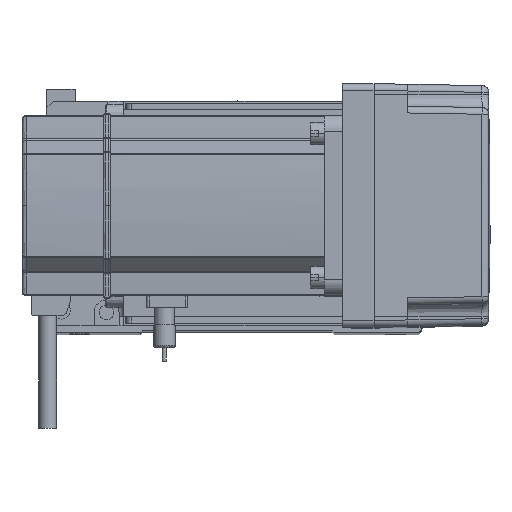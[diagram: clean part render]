
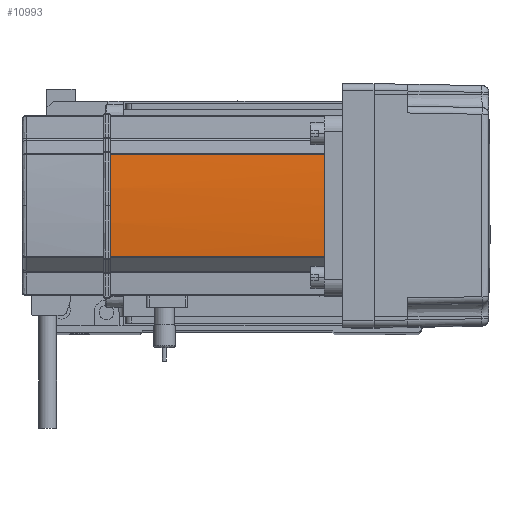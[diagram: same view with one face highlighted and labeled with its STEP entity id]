
A CAD part, top view. The second image highlights one B-rep face of the part: STEP entity #10993.
In plain terms, the highlighted cylindrical face has radius 270 mm (diameter 540 mm), a partial arc.
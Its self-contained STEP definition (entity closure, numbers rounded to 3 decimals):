
#746 = DIRECTION ( 'NONE',  ( 0., 0., 1. ) ) ;
#2435 = VERTEX_POINT ( 'NONE', #50577 ) ;
#3681 = DIRECTION ( 'NONE',  ( 0., 0., 1. ) ) ;
#3773 = CIRCLE ( 'NONE', #9966, 270. ) ;
#5027 = DIRECTION ( 'NONE',  ( 0., 0., -1. ) ) ;
#6874 = EDGE_CURVE ( 'NONE', #27685, #46091, #3773, .T. ) ;
#7157 = VERTEX_POINT ( 'NONE', #36383 ) ;
#8367 = DIRECTION ( 'NONE',  ( 1., 0., 0. ) ) ;
#8438 = LINE ( 'NONE', #25450, #19837 ) ;
#9714 = EDGE_CURVE ( 'NONE', #46091, #41970, #16575, .T. ) ;
#9966 = AXIS2_PLACEMENT_3D ( 'NONE', #26010, #5027, #35078 ) ;
#10520 = CIRCLE ( 'NONE', #40606, 270. ) ;
#10993 = ADVANCED_FACE ( 'NONE', ( #51416 ), #33210, .T. ) ;
#11081 = EDGE_LOOP ( 'NONE', ( #15175, #16503, #22320, #25846, #17509 ) ) ;
#13257 = DIRECTION ( 'NONE',  ( 1., 0., 0. ) ) ;
#13458 = CARTESIAN_POINT ( 'NONE',  ( -39.042, -22.724, 0. ) ) ;
#15175 = ORIENTED_EDGE ( 'NONE', *, *, #6874, .T. ) ;
#16503 = ORIENTED_EDGE ( 'NONE', *, *, #9714, .T. ) ;
#16575 = CIRCLE ( 'NONE', #27272, 270. ) ;
#17509 = ORIENTED_EDGE ( 'NONE', *, *, #52996, .T. ) ;
#19794 = CARTESIAN_POINT ( 'NONE',  ( -39.042, 22.724, 134. ) ) ;
#19837 = VECTOR ( 'NONE', #21517, 1000. ) ;
#21507 = CARTESIAN_POINT ( 'NONE',  ( 230., 0., 39. ) ) ;
#21517 = DIRECTION ( 'NONE',  ( 0., 0., -1. ) ) ;
#22320 = ORIENTED_EDGE ( 'NONE', *, *, #34207, .T. ) ;
#24662 = EDGE_CURVE ( 'NONE', #2435, #7157, #10520, .T. ) ;
#25439 = DIRECTION ( 'NONE',  ( 0., 0., -1. ) ) ;
#25450 = CARTESIAN_POINT ( 'NONE',  ( -39.042, 22.724, 0. ) ) ;
#25592 = CARTESIAN_POINT ( 'NONE',  ( 230., 0., 0. ) ) ;
#25846 = ORIENTED_EDGE ( 'NONE', *, *, #24662, .F. ) ;
#26010 = CARTESIAN_POINT ( 'NONE',  ( 230., 0., 134. ) ) ;
#27272 = AXIS2_PLACEMENT_3D ( 'NONE', #40920, #28046, #49392 ) ;
#27685 = VERTEX_POINT ( 'NONE', #32704 ) ;
#28046 = DIRECTION ( 'NONE',  ( 0., 0., -1. ) ) ;
#32704 = CARTESIAN_POINT ( 'NONE',  ( -39.042, -22.724, 134. ) ) ;
#33210 = CYLINDRICAL_SURFACE ( 'NONE', #38505, 270. ) ;
#34207 = EDGE_CURVE ( 'NONE', #41970, #7157, #8438, .T. ) ;
#35078 = DIRECTION ( 'NONE',  ( 1., 0., 0. ) ) ;
#36383 = CARTESIAN_POINT ( 'NONE',  ( -39.042, 22.724, 39. ) ) ;
#37202 = VECTOR ( 'NONE', #746, 1000. ) ;
#38505 = AXIS2_PLACEMENT_3D ( 'NONE', #25592, #3681, #8367 ) ;
#40350 = CARTESIAN_POINT ( 'NONE',  ( -40., 0., 134. ) ) ;
#40606 = AXIS2_PLACEMENT_3D ( 'NONE', #21507, #25439, #13257 ) ;
#40920 = CARTESIAN_POINT ( 'NONE',  ( 230., 0., 134. ) ) ;
#41970 = VERTEX_POINT ( 'NONE', #19794 ) ;
#46091 = VERTEX_POINT ( 'NONE', #40350 ) ;
#49392 = DIRECTION ( 'NONE',  ( 1., 0., 0. ) ) ;
#50577 = CARTESIAN_POINT ( 'NONE',  ( -39.042, -22.724, 39. ) ) ;
#51354 = LINE ( 'NONE', #13458, #37202 ) ;
#51416 = FACE_OUTER_BOUND ( 'NONE', #11081, .T. ) ;
#52996 = EDGE_CURVE ( 'NONE', #2435, #27685, #51354, .T. ) ;
